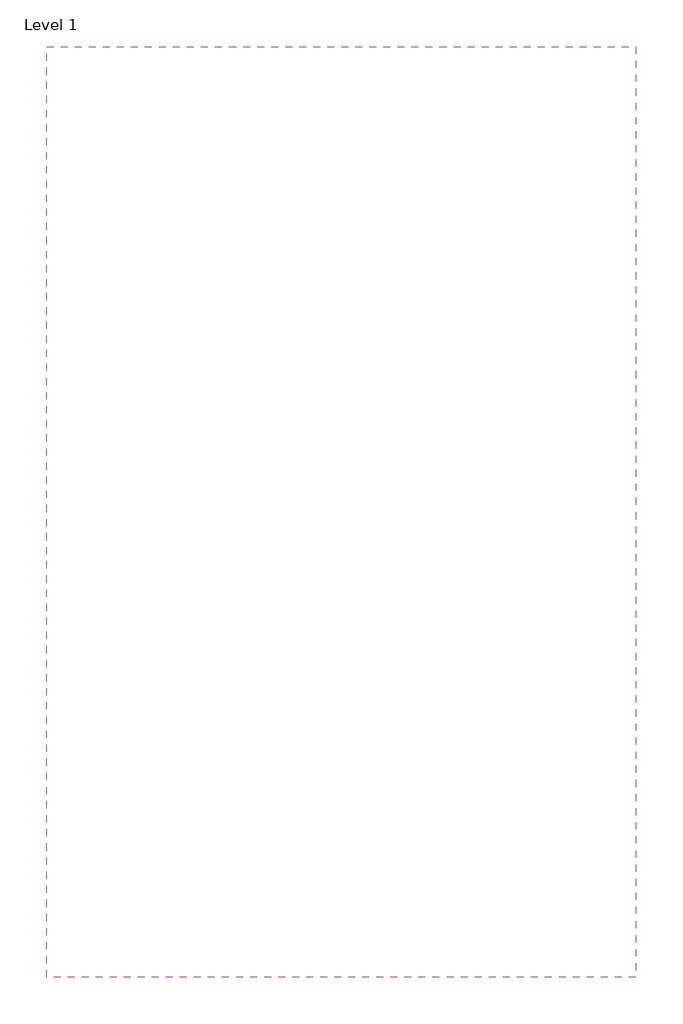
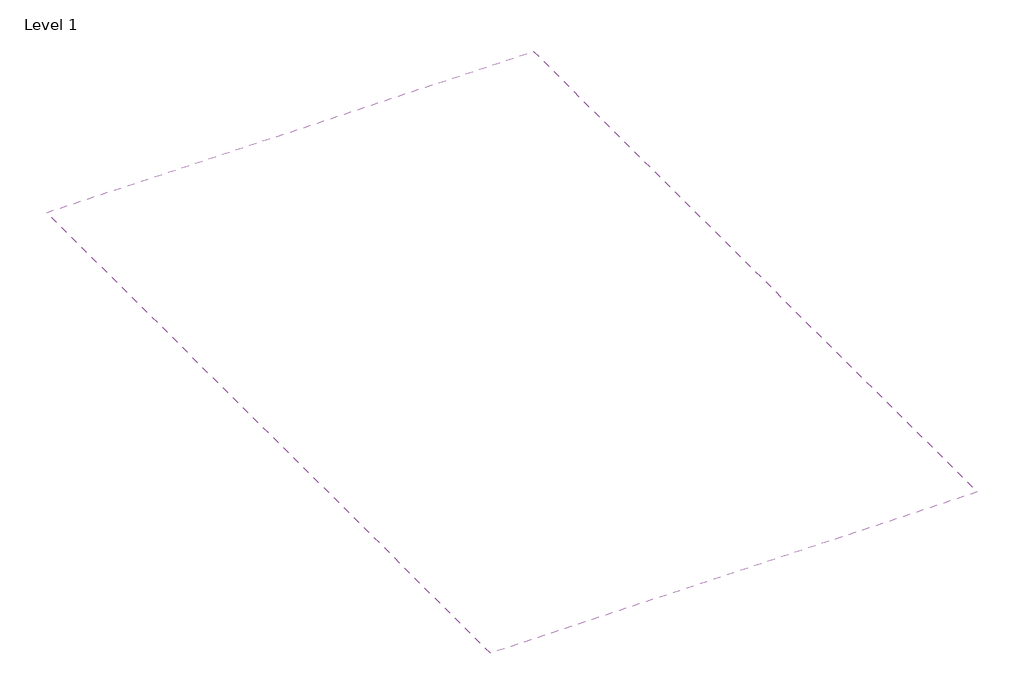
# One storey, incomplete: 1 covering.
"""IFC4 building model written with IfcOpenShell, lengths in millimetres."""

from ifc_helpers import new_model, si_unit, frame, origin, place, context, project, spatial, polyline, outline, extrude, element, save

model = new_model("IFC4")

# Units and contexts
model_context = context("Model", 3, world=origin())
ifc_project = project(units=[si_unit("LENGTHUNIT", "METRE", prefix="MILLI")], contexts=[model_context])

# Site, building, storey
site = spatial("IfcSite", under=ifc_project)
building = spatial("IfcBuilding", under=site)
storey = spatial("IfcBuildingStorey", under=building, Name="Level 1", Elevation=0.0)

# Covering
placement = place(None, origin())
element("IfcCovering", 1, ObjectType="Plain", at=placement, inside=storey, context=model_context, shape_type="SweptSolid", body=[
    extrude(outline(polyline([(-3740.4281472, 6858.957873), (-3740.4281472, -1683.1164592), (-9149.0571473, -1683.1164592), (-9149.0571473, 6858.957873), (-3740.4281472, 6858.957873)])), frame((0.0, 0.0, 2600.0), z_axis=(0.0, 0.0, 1.0), x_axis=(1.0, 0.0, 0.0)), (0.0, 0.0, 1.0), 57.0),
])

save(model, "model.ifc")
